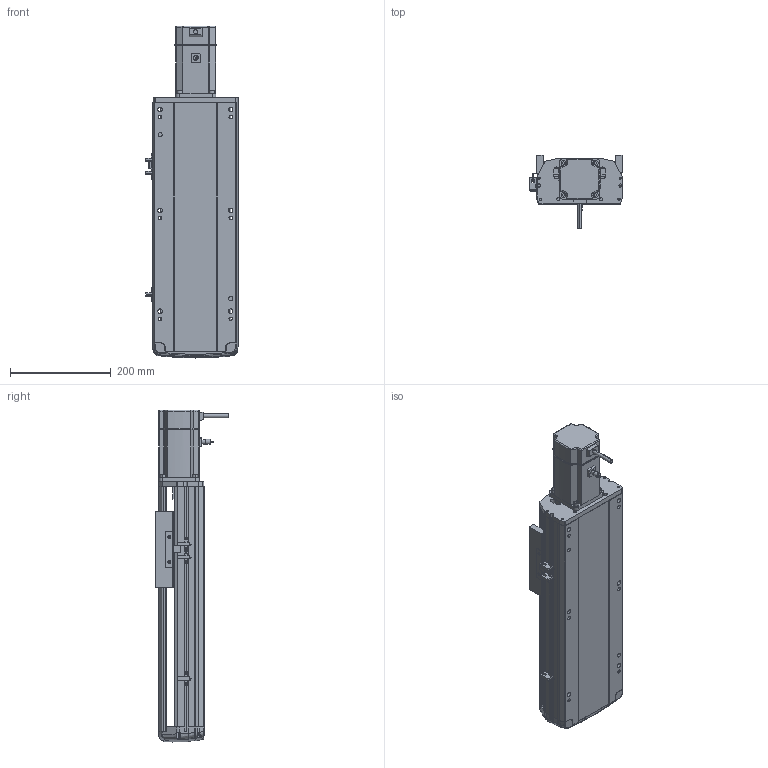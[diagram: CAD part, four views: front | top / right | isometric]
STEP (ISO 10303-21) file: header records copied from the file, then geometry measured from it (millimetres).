
FILE_DESCRIPTION (( 'STEP AP214' ), '1' );
FILE_NAME ('RTH17-XX-250-E-M75-C4.STEP', '2025-10-24T09:35:41', ( '' ), ( '' ), 'SwSTEP 2.0', 'SolidWorks 2018', '' );
FILE_SCHEMA (( 'AUTOMOTIVE_DESIGN' ));
Length unit declared in the file: millimetre
Products named in the file (9): N_OMRON EE-SX672 換覜ん^RTH17-XX-XX-E-M75-C4ㄗ源最宒ㄘ; N_RTH17-E-008-P75电机板^RTH17-XX-XX-E-M75-C4（方程式）; N_RTH17-E-011底座^RTH17-XX-XX-E-M75-C4（方程式）; N_RTH17-GY-001P^RTH17-XX-XX-E-M75-C4（方程式）; N_M75^RTH17-XX-XX-E-M75-C4（方程式）; N_RTH17-E-004丝杆螺母连接座^RTH17-XX-XX-E-M75-C4（方程式）; N_RTH17-E-007上盖^RTH17-XX-XX-E-M75-C4（方程式）; N_RTH-L-012 感应片(外置)^RTH17-XX-XX-E-M75-C4（方程式）; RTH17-XX-250-E-M75-C4
Assembly tree (10 placements, depth 2):
  RTH17-XX-250-E-M75-C4
    N_RTH17-E-011底座^RTH17-XX-XX-E-M75-C4（方程式）
    N_RTH17-E-007上盖^RTH17-XX-XX-E-M75-C4（方程式）
    N_M75^RTH17-XX-XX-E-M75-C4（方程式）
    N_RTH17-E-008-P75电机板^RTH17-XX-XX-E-M75-C4（方程式）
    N_OMRON EE-SX672 換覜ん^RTH17-XX-XX-E-M75-C4ㄗ源最宒ㄘ  x3
    N_RTH-L-012 感应片(外置)^RTH17-XX-XX-E-M75-C4（方程式）
    N_RTH17-E-004丝杆螺母连接座^RTH17-XX-XX-E-M75-C4（方程式）
    N_RTH17-GY-001P^RTH17-XX-XX-E-M75-C4（方程式）
Bounding box: 183.5 x 145.7 x 658.27 mm (x, y, z)
Volume: 5059740.2 mm3; surface area: 686092.7 mm2
Topology: 9 solids, 11 shells, 1732 faces, 4767 edges, 3086 vertices
Faces by surface type: plane 818, cylinder 500, bspline 377, cone 28, torus 9
Entity records: 50230 total; most frequent: CARTESIAN_POINT 19901, ORIENTED_EDGE 6558, DIRECTION 5507, EDGE_CURVE 3283, VERTEX_POINT 2122, AXIS2_PLACEMENT_3D 1859, LINE 1789, VECTOR 1789
